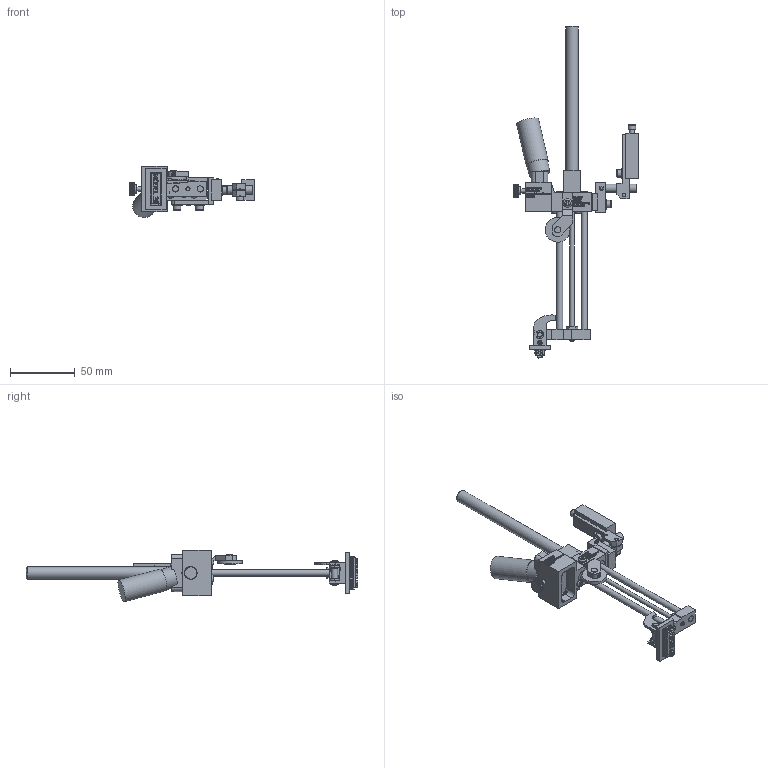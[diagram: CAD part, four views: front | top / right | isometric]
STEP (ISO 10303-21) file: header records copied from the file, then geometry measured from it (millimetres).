
FILE_DESCRIPTION((''),'2;1');
FILE_NAME('C:\Documents and Settings\Ron\My Documents\Inventor\Sprinter Drawing\Machines in Inventor\Model 28\Type\Ext Str\E2\Brkt\Ext\Model 28 E2 Type Ext w brkt.stp','2009-01-22T13:36:22',('Ron'),(''),'Autodesk Inventor 2008','Autodesk Inventor 2008','');
FILE_SCHEMA(('AUTOMOTIVE_DESIGN { 1 0 10303 214 1 1 1 1 }'));
Length unit declared in the file: inch
Products named in the file (1): Model 28 E2 Type Ext w brkt
Bounding box: 95.97 x 255.87 x 39.63 mm (x, y, z)
Volume: 73312.9 mm3; surface area: 40717.8 mm2
Topology: 33 solids, 33 shells, 4164 faces, 11349 edges, 7534 vertices
Faces by surface type: plane 2437, bspline 1347, cylinder 316, cone 50, torus 14
Full cylindrical faces by diameter (mm): 2.337 x1, 2.845 x3, 2.946 x2, 3.048 x1, 3.175 x4, 3.454 x1, 3.505 x7, 3.658 x1, 3.876 x1, 3.962 x9, 4.064 x1, 4.166 x2, 4.648 x2, 4.699 x1, 4.75 x1, 4.763 x2, 4.775 x2, 4.788 x1, 5.41 x2, 5.74 x6, 6.096 x1, 6.325 x2, 6.35 x2, 6.655 x1, 7.239 x1, 7.925 x4, 7.938 x1, 8.128 x1, 9.525 x1, 10.922 x1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
Entity records: 143948 total; most frequent: CARTESIAN_POINT 46218, ORIENTED_EDGE 22190, DIRECTION 14947, EDGE_CURVE 11095, VECTOR 7521, LINE 7521, VERTEX_POINT 7452, EDGE_LOOP 4689
